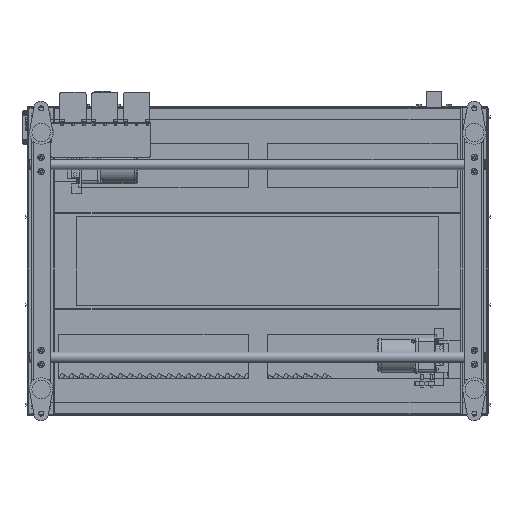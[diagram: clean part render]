
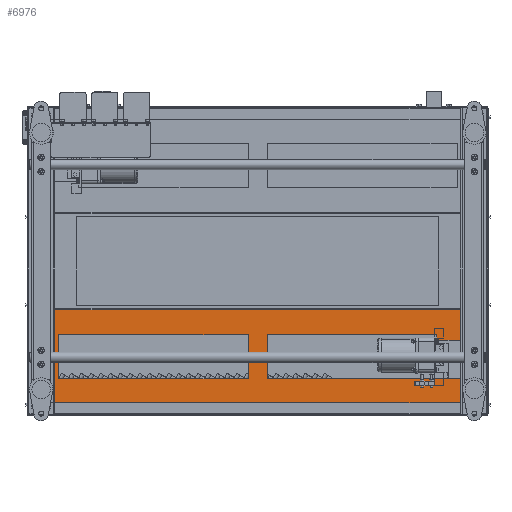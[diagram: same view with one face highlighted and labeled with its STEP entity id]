
A CAD part, front view. The second image highlights one B-rep face of the part: STEP entity #6976.
In plain terms, the highlighted planar face has unit normal (0, -1, 0).
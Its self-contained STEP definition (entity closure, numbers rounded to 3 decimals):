
#6976=ADVANCED_FACE('',(#42419,#42420,#42421),#42418,.F.);
#42418=PLANE('',#63657);
#42419=FACE_OUTER_BOUND('',#63658,.T.);
#42420=FACE_BOUND('',#63659,.T.);
#42421=FACE_BOUND('',#63660,.T.);
#63654=CARTESIAN_POINT('',(1207.,-93.,-407.));
#63655=DIRECTION('',(0.,1.,0.));
#63656=DIRECTION('',(-1.,0.,0.));
#63657=AXIS2_PLACEMENT_3D('',#63654,#63655,#63656);
#63658=EDGE_LOOP('',(#81002,#81003,#81004,#81005));
#63659=EDGE_LOOP('',(#81006,#81007,#81008,#81009,#81010,#81011));
#63660=EDGE_LOOP('',(#81012,#81013,#81014,#81015));
#81002=ORIENTED_EDGE('',*,*,#89466,.T.);
#81003=ORIENTED_EDGE('',*,*,#89522,.F.);
#81004=ORIENTED_EDGE('',*,*,#89708,.F.);
#81005=ORIENTED_EDGE('',*,*,#89525,.T.);
#81006=ORIENTED_EDGE('',*,*,#89683,.T.);
#81007=ORIENTED_EDGE('',*,*,#89685,.T.);
#81008=ORIENTED_EDGE('',*,*,#89687,.T.);
#81009=ORIENTED_EDGE('',*,*,#89688,.T.);
#81010=ORIENTED_EDGE('',*,*,#89679,.T.);
#81011=ORIENTED_EDGE('',*,*,#89681,.T.);
#81012=ORIENTED_EDGE('',*,*,#89695,.T.);
#81013=ORIENTED_EDGE('',*,*,#89699,.T.);
#81014=ORIENTED_EDGE('',*,*,#89698,.T.);
#81015=ORIENTED_EDGE('',*,*,#89700,.T.);
#89466=EDGE_CURVE('',#145768,#145775,#145782,.T.);
#89522=EDGE_CURVE('',#146153,#145775,#146160,.T.);
#89525=EDGE_CURVE('',#146178,#145768,#146179,.T.);
#89679=EDGE_CURVE('',#147170,#147177,#147184,.T.);
#89681=EDGE_CURVE('',#147177,#147190,#147197,.T.);
#89683=EDGE_CURVE('',#147190,#147203,#147210,.T.);
#89685=EDGE_CURVE('',#147203,#147216,#147223,.T.);
#89687=EDGE_CURVE('',#147216,#147229,#147236,.T.);
#89688=EDGE_CURVE('',#147229,#147170,#147242,.T.);
#89695=EDGE_CURVE('',#147272,#147279,#147286,.T.);
#89698=EDGE_CURVE('',#147292,#147299,#147306,.T.);
#89699=EDGE_CURVE('',#147279,#147292,#147312,.T.);
#89700=EDGE_CURVE('',#147299,#147272,#147318,.T.);
#89708=EDGE_CURVE('',#146178,#146153,#147368,.T.);
#145768=VERTEX_POINT('',#181452);
#145775=VERTEX_POINT('',#181456);
#145782=LINE('',#181460,#181461);
#146153=VERTEX_POINT('',#181666);
#146160=LINE('',#181670,#181671);
#146178=VERTEX_POINT('',#181679);
#146179=LINE('',#181680,#181681);
#147170=VERTEX_POINT('',#182215);
#147177=VERTEX_POINT('',#182219);
#147184=LINE('',#182223,#182224);
#147190=VERTEX_POINT('',#182226);
#147197=LINE('',#182230,#182231);
#147203=VERTEX_POINT('',#182233);
#147210=LINE('',#182237,#182238);
#147216=VERTEX_POINT('',#182240);
#147223=LINE('',#182244,#182245);
#147229=VERTEX_POINT('',#182247);
#147236=LINE('',#182251,#182252);
#147242=LINE('',#182254,#182255);
#147272=VERTEX_POINT('',#182269);
#147279=VERTEX_POINT('',#182273);
#147286=LINE('',#182277,#182278);
#147292=VERTEX_POINT('',#182280);
#147299=VERTEX_POINT('',#182284);
#147306=LINE('',#182288,#182289);
#147312=LINE('',#182291,#182292);
#147318=LINE('',#182294,#182295);
#147368=LINE('',#182320,#182321);
#181452=CARTESIAN_POINT('',(1197.,-93.,-127.));
#181456=CARTESIAN_POINT('',(3.,-93.,-127.));
#181460=CARTESIAN_POINT('',(1197.,-93.,-127.));
#181461=VECTOR('',#181462,1194.);
#181462=DIRECTION('',(-1.,0.,0.));
#181666=CARTESIAN_POINT('',(3.,-93.,-397.));
#181670=CARTESIAN_POINT('',(3.,-93.,-397.));
#181671=VECTOR('',#181672,270.);
#181672=DIRECTION('',(0.,0.,1.));
#181679=CARTESIAN_POINT('',(1197.,-93.,-397.));
#181680=CARTESIAN_POINT('',(1197.,-93.,-397.));
#181681=VECTOR('',#181682,270.);
#181682=DIRECTION('',(0.,0.,1.));
#182215=CARTESIAN_POINT('',(625.,-93.,-307.));
#182219=CARTESIAN_POINT('',(625.,-93.,-192.));
#182223=CARTESIAN_POINT('',(625.,-93.,-307.));
#182224=VECTOR('',#182225,115.);
#182225=DIRECTION('',(0.,0.,1.));
#182226=CARTESIAN_POINT('',(1067.,-93.,-192.));
#182230=CARTESIAN_POINT('',(625.,-93.,-192.));
#182231=VECTOR('',#182232,442.);
#182232=DIRECTION('',(1.,0.,0.));
#182233=CARTESIAN_POINT('',(1067.,-93.,-207.));
#182237=CARTESIAN_POINT('',(1067.,-93.,-192.));
#182238=VECTOR('',#182239,15.);
#182239=DIRECTION('',(0.,0.,-1.));
#182240=CARTESIAN_POINT('',(1160.,-93.,-207.));
#182244=CARTESIAN_POINT('',(1067.,-93.,-207.));
#182245=VECTOR('',#182246,93.);
#182246=DIRECTION('',(1.,0.,0.));
#182247=CARTESIAN_POINT('',(1160.,-93.,-307.));
#182251=CARTESIAN_POINT('',(1160.,-93.,-207.));
#182252=VECTOR('',#182253,100.);
#182253=DIRECTION('',(0.,0.,-1.));
#182254=CARTESIAN_POINT('',(1160.,-93.,-307.));
#182255=VECTOR('',#182256,535.);
#182256=DIRECTION('',(-1.,0.,0.));
#182269=CARTESIAN_POINT('',(575.,-93.,-192.));
#182273=CARTESIAN_POINT('',(575.,-93.,-307.));
#182277=CARTESIAN_POINT('',(575.,-93.,-192.));
#182278=VECTOR('',#182279,115.);
#182279=DIRECTION('',(0.,0.,-1.));
#182280=CARTESIAN_POINT('',(80.,-93.,-307.));
#182284=CARTESIAN_POINT('',(80.,-93.,-192.));
#182288=CARTESIAN_POINT('',(80.,-93.,-307.));
#182289=VECTOR('',#182290,115.);
#182290=DIRECTION('',(0.,0.,1.));
#182291=CARTESIAN_POINT('',(575.,-93.,-307.));
#182292=VECTOR('',#182293,495.);
#182293=DIRECTION('',(-1.,0.,0.));
#182294=CARTESIAN_POINT('',(80.,-93.,-192.));
#182295=VECTOR('',#182296,495.);
#182296=DIRECTION('',(1.,0.,0.));
#182320=CARTESIAN_POINT('',(1197.,-93.,-397.));
#182321=VECTOR('',#182322,1194.);
#182322=DIRECTION('',(-1.,0.,0.));
